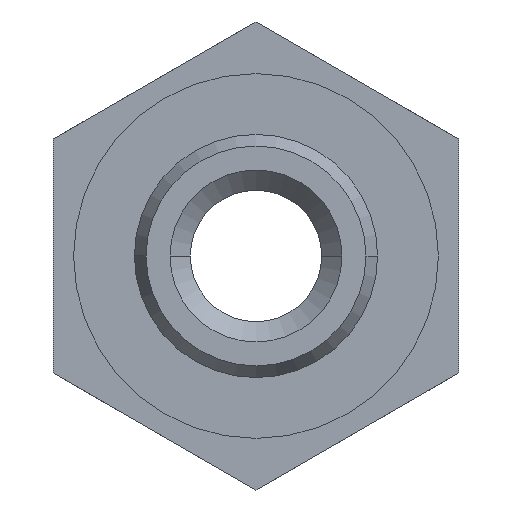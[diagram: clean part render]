
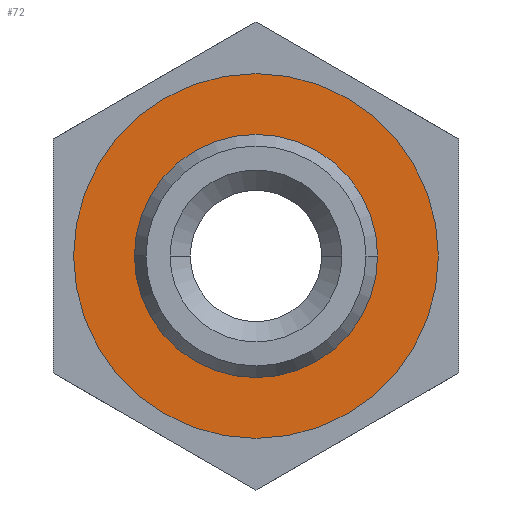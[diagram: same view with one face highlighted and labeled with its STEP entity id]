
A CAD part, front view. The second image highlights one B-rep face of the part: STEP entity #72.
In plain terms, the highlighted planar face has unit normal (0, -1, 0).
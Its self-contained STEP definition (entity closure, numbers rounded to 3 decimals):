
#31=CARTESIAN_POINT('Axis2P3D Location',(0.,0.,0.)) ;
#36=CARTESIAN_POINT('Axis2P3D Location',(0.,0.,0.)) ;
#40=CARTESIAN_POINT('Vertex',(4.5,0.,0.)) ;
#42=CARTESIAN_POINT('Vertex',(-4.5,0.,0.)) ;
#45=CARTESIAN_POINT('Axis2P3D Location',(0.,0.,0.)) ;
#54=CARTESIAN_POINT('Axis2P3D Location',(0.,0.,0.)) ;
#58=CARTESIAN_POINT('Vertex',(3.,0.,0.)) ;
#60=CARTESIAN_POINT('Vertex',(-3.,0.,0.)) ;
#63=CARTESIAN_POINT('Axis2P3D Location',(0.,0.,0.)) ;
#32=DIRECTION('Axis2P3D Direction',(0.,-1.,0.)) ;
#33=DIRECTION('Axis2P3D XDirection',(1.,0.,0.)) ;
#37=DIRECTION('Axis2P3D Direction',(0.,-1.,0.)) ;
#46=DIRECTION('Axis2P3D Direction',(0.,-1.,0.)) ;
#55=DIRECTION('Axis2P3D Direction',(0.,-1.,0.)) ;
#64=DIRECTION('Axis2P3D Direction',(0.,-1.,0.)) ;
#34=AXIS2_PLACEMENT_3D('Plane Axis2P3D',#31,#32,#33) ;
#38=AXIS2_PLACEMENT_3D('Circle Axis2P3D',#36,#37,$) ;
#47=AXIS2_PLACEMENT_3D('Circle Axis2P3D',#45,#46,$) ;
#56=AXIS2_PLACEMENT_3D('Circle Axis2P3D',#54,#55,$) ;
#65=AXIS2_PLACEMENT_3D('Circle Axis2P3D',#63,#64,$) ;
#39=CIRCLE('generated circle',#38,4.5) ;
#48=CIRCLE('generated circle',#47,4.5) ;
#57=CIRCLE('generated circle',#56,3.) ;
#66=CIRCLE('generated circle',#65,3.) ;
#35=PLANE('',#34) ;
#71=FACE_BOUND('',#68,.T.) ;
#44=EDGE_CURVE('',#41,#43,#39,.T.) ;
#49=EDGE_CURVE('',#43,#41,#48,.T.) ;
#62=EDGE_CURVE('',#59,#61,#57,.T.) ;
#67=EDGE_CURVE('',#61,#59,#66,.T.) ;
#50=EDGE_LOOP('',(#51,#52)) ;
#68=EDGE_LOOP('',(#69,#70)) ;
#51=ORIENTED_EDGE('',*,*,#44,.T.) ;
#52=ORIENTED_EDGE('',*,*,#49,.T.) ;
#69=ORIENTED_EDGE('',*,*,#62,.F.) ;
#70=ORIENTED_EDGE('',*,*,#67,.F.) ;
#41=VERTEX_POINT('',#40) ;
#43=VERTEX_POINT('',#42) ;
#59=VERTEX_POINT('',#58) ;
#61=VERTEX_POINT('',#60) ;
#72=ADVANCED_FACE('Corps principal',(#53,#71),#35,.T.) ;
#53=FACE_OUTER_BOUND('',#50,.T.) ;
